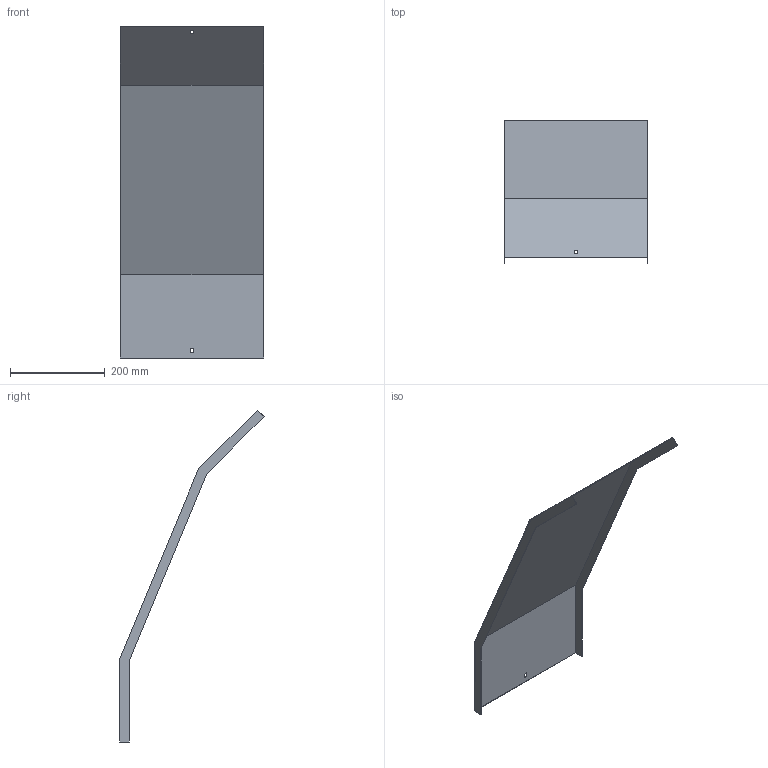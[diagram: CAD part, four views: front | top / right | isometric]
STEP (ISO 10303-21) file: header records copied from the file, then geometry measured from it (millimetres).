
FILE_DESCRIPTION (( 'STEP AP214' ), '1' );
FILE_NAME ('34N5J300.step', '2025-02-21T10:33:42', ( '' ), ( '' ), 'SwSTEP 2.0', 'SolidWorks 2023', '' );
FILE_SCHEMA (( 'AUTOMOTIVE_DESIGN' ));
Length unit declared in the file: millimetre
Products named in the file (1): 34N5J300
Bounding box: 303 x 304.65 x 701.34 mm (x, y, z)
Volume: 399894.2 mm3; surface area: 536617.1 mm2
Topology: 1 solids, 1 shells, 26 faces, 72 edges, 48 vertices
Faces by surface type: plane 26
Entity records: 847 total; most frequent: CARTESIAN_POINT 147, ORIENTED_EDGE 144, DIRECTION 126, EDGE_CURVE 72, LINE 72, VECTOR 72, VERTEX_POINT 48, EDGE_LOOP 30
